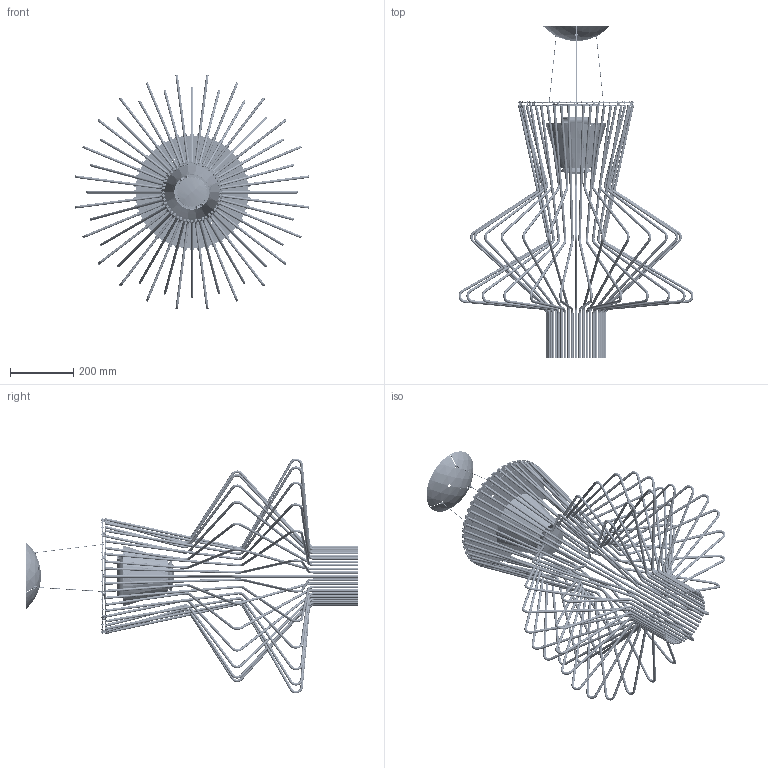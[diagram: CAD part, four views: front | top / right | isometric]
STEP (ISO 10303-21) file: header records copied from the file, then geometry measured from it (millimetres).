
FILE_DESCRIPTION (( 'STEP AP214' ), '1' );
FILE_NAME ('169_RITMICO_S_PL_3D.STEP', '2021-05-10T06:32:01', ( '' ), ( '' ), 'SwSTEP 2.0', 'SolidWorks 2021', '' );
FILE_SCHEMA (( 'AUTOMOTIVE_DESIGN' ));
Length unit declared in the file: millimetre
Products named in the file (1): 169_RITMICO_S_PL_3D
Bounding box: 743.63 x 1050.43 x 743.63 mm (x, y, z)
Volume: 3186171.3 mm3; surface area: 1928409.1 mm2
Topology: 120 solids, 121 shells, 6791 faces, 17269 edges, 10764 vertices
Faces by surface type: cylinder 2211, plane 2199, torus 1710, cone 659, sphere 12
Entity records: 289570 total; most frequent: CARTESIAN_POINT 42563, DIRECTION 40026, ORIENTED_EDGE 34538, EDGE_CURVE 17269, AXIS2_PLACEMENT_3D 16861, VERTEX_POINT 10764, CIRCLE 10069, EDGE_LOOP 7053
